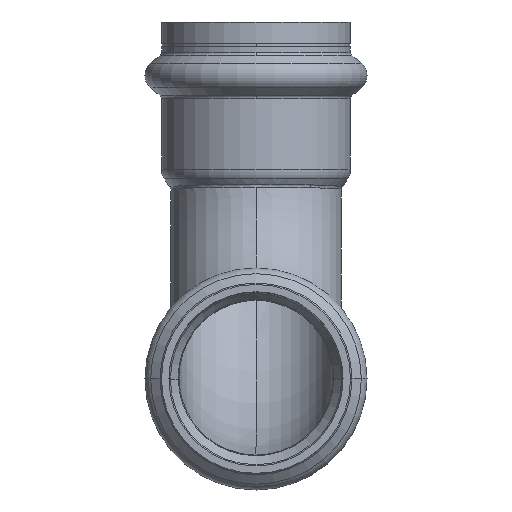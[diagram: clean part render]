
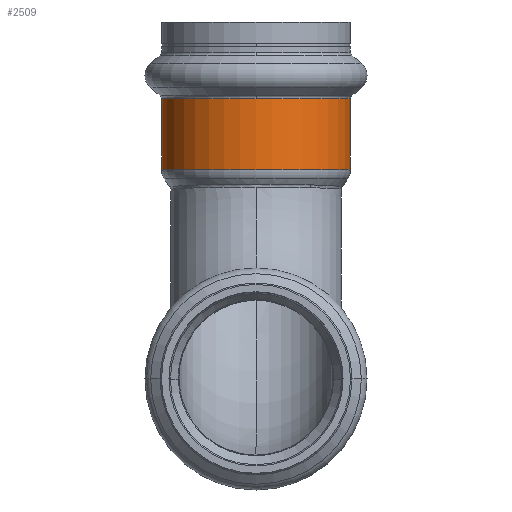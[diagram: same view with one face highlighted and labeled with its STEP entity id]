
A CAD part, top view. The second image highlights one B-rep face of the part: STEP entity #2509.
In plain terms, the highlighted cylindrical face has radius 23 mm (diameter 46 mm), a partial arc.
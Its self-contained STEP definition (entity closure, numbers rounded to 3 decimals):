
#157 = CARTESIAN_POINT ( 'NONE',  ( 23., 51., 0. ) ) ;
#220 = LINE ( 'NONE', #1537, #4414 ) ;
#248 = EDGE_CURVE ( 'NONE', #844, #3616, #3403, .T. ) ;
#324 = DIRECTION ( 'NONE',  ( 0., 0., 1. ) ) ;
#585 = VERTEX_POINT ( 'NONE', #4553 ) ;
#844 = VERTEX_POINT ( 'NONE', #157 ) ;
#865 = LINE ( 'NONE', #2988, #4717 ) ;
#966 = DIRECTION ( 'NONE',  ( 0., 1., 0. ) ) ;
#1497 = CIRCLE ( 'NONE', #2371, 23. ) ;
#1537 = CARTESIAN_POINT ( 'NONE',  ( 23., 62.626, 0. ) ) ;
#1675 = CARTESIAN_POINT ( 'NONE',  ( -23., 68.327, 0. ) ) ;
#1891 = ORIENTED_EDGE ( 'NONE', *, *, #4151, .T. ) ;
#1906 = CYLINDRICAL_SURFACE ( 'NONE', #2304, 23. ) ;
#1916 = DIRECTION ( 'NONE',  ( 1., 0., 0. ) ) ;
#1960 = VERTEX_POINT ( 'NONE', #4950 ) ;
#2089 = ORIENTED_EDGE ( 'NONE', *, *, #4033, .T. ) ;
#2285 = DIRECTION ( 'NONE',  ( 0., -1., 0. ) ) ;
#2304 = AXIS2_PLACEMENT_3D ( 'NONE', #3603, #3665, #1916 ) ;
#2371 = AXIS2_PLACEMENT_3D ( 'NONE', #4916, #3002, #324 ) ;
#2462 = EDGE_CURVE ( 'NONE', #3616, #3676, #865, .T. ) ;
#2509 = ADVANCED_FACE ( 'NONE', ( #3088 ), #1906, .T. ) ;
#2677 = CARTESIAN_POINT ( 'NONE',  ( 0., 51., 0. ) ) ;
#2779 = CARTESIAN_POINT ( 'NONE',  ( -23., 51., 0. ) ) ;
#2832 = DIRECTION ( 'NONE',  ( 0., -1., 0. ) ) ;
#2876 = DIRECTION ( 'NONE',  ( 1., 0., 0. ) ) ;
#2955 = DIRECTION ( 'NONE',  ( 0., 1., 0. ) ) ;
#2988 = CARTESIAN_POINT ( 'NONE',  ( -23., 62.626, 0. ) ) ;
#3002 = DIRECTION ( 'NONE',  ( 0., -1., 0. ) ) ;
#3079 = EDGE_LOOP ( 'NONE', ( #4173, #4070, #4169, #1891, #2089 ) ) ;
#3081 = EDGE_CURVE ( 'NONE', #844, #1960, #220, .T. ) ;
#3088 = FACE_OUTER_BOUND ( 'NONE', #3079, .T. ) ;
#3403 = CIRCLE ( 'NONE', #3668, 23. ) ;
#3603 = CARTESIAN_POINT ( 'NONE',  ( 0., 62.626, 0. ) ) ;
#3616 = VERTEX_POINT ( 'NONE', #2779 ) ;
#3665 = DIRECTION ( 'NONE',  ( 0., 1., 0. ) ) ;
#3668 = AXIS2_PLACEMENT_3D ( 'NONE', #2677, #2832, #2876 ) ;
#3676 = VERTEX_POINT ( 'NONE', #1675 ) ;
#4033 = EDGE_CURVE ( 'NONE', #585, #3676, #1497, .T. ) ;
#4070 = ORIENTED_EDGE ( 'NONE', *, *, #248, .F. ) ;
#4151 = EDGE_CURVE ( 'NONE', #1960, #585, #4227, .T. ) ;
#4169 = ORIENTED_EDGE ( 'NONE', *, *, #3081, .T. ) ;
#4173 = ORIENTED_EDGE ( 'NONE', *, *, #2462, .F. ) ;
#4227 = CIRCLE ( 'NONE', #4628, 23. ) ;
#4354 = CARTESIAN_POINT ( 'NONE',  ( 0., 68.327, 0. ) ) ;
#4414 = VECTOR ( 'NONE', #966, 1000. ) ;
#4553 = CARTESIAN_POINT ( 'NONE',  ( 0., 68.327, 23. ) ) ;
#4628 = AXIS2_PLACEMENT_3D ( 'NONE', #4354, #2285, #4629 ) ;
#4629 = DIRECTION ( 'NONE',  ( 0., 0., 1. ) ) ;
#4717 = VECTOR ( 'NONE', #2955, 1000. ) ;
#4916 = CARTESIAN_POINT ( 'NONE',  ( 0., 68.327, 0. ) ) ;
#4950 = CARTESIAN_POINT ( 'NONE',  ( 23., 68.327, 0. ) ) ;
